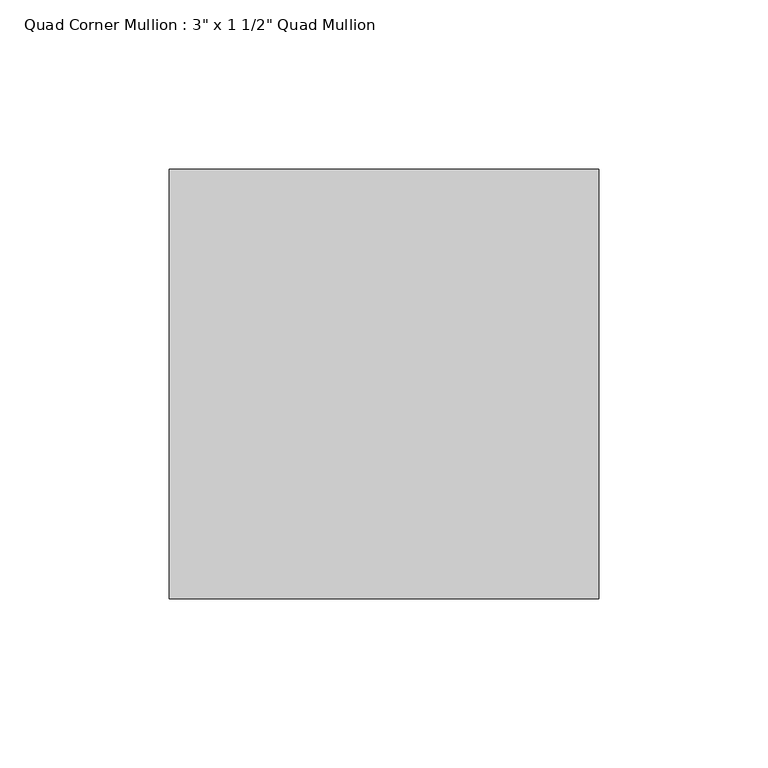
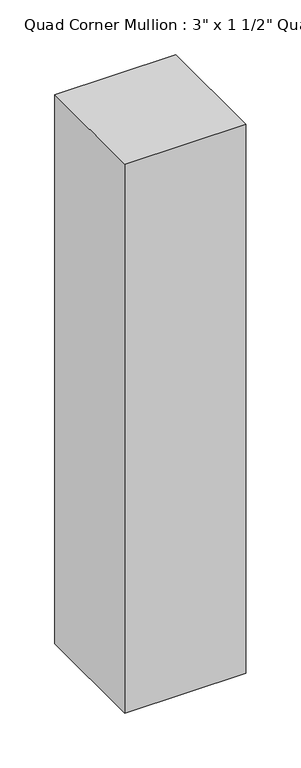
"""IFC4 building model written with IfcOpenShell, lengths in millimetres: member geometry."""

from ifc_helpers import new_model, si_unit, frame, origin, place, context, project, spatial, polyline, outline, extrude, source, transform, mapped, element, save


def member_f9488aa6(model_context):
    return source(origin(), model_context, "Body", "SweptSolid", [
        extrude(outline(polyline([(63.5, 63.5), (63.5, -63.5), (-63.5, -63.5), (-63.5, 63.5), (63.5, 63.5)])), frame((0.0, 0.0, -609.6), z_axis=(0.0, 0.0, 1.0), x_axis=(1.0, 0.0, 0.0)), (0.0, 0.0, 1.0), 609.6),
    ])


if __name__ == "__main__":
    model = new_model("IFC4")
    model_context = context("Model", 3, world=origin())
    ifc_project = project(units=[si_unit("LENGTHUNIT", "METRE", prefix="MILLI")], contexts=[model_context])
    site = spatial("IfcSite", under=ifc_project)
    building = spatial("IfcBuilding", under=site)
    placement = place(None, origin())
    member_shape = member_f9488aa6(model_context)
    element("IfcMember", 1, ObjectType="Quad Corner Mullion : 3\" x 1 1/2\" Quad Mullion", at=placement, inside=building, context=model_context, shape_type="MappedRepresentation", body=[
        mapped(member_shape, transform((0.0, 0.0, 0.0), x_axis=(1.0, 0.0, 0.0), y_axis=(0.0, 1.0, 0.0), z_axis=(0.0, 0.0, 1.0))),
    ])
    save(model, "model.ifc")
